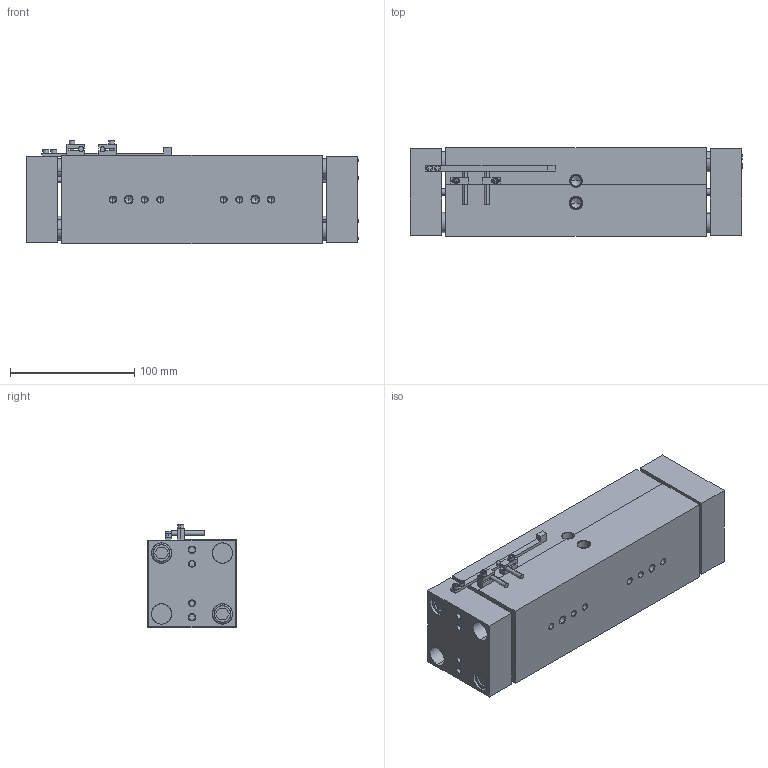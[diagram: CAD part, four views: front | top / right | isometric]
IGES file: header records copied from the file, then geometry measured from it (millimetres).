
Start section: SolidWorks IGES file using analytic representation for surfaces
Global section: file name: C:\Users\jmkuhnes\Pictures\My Transfers\AGW-625-6\AGW-625-6 CLOSED in IN.IGS; native system: SolidWorks 2013; preprocessor: SolidWorks 2013; author: jmkuhnes; date: 141125.095800; units: inch
Bounding box: 266.7 x 71.12 x 83.19 mm (x, y, z)
Surface area: 207726.1 mm2 (no closed solid volume)
Topology: 0 solids, 0 shells, 393 faces, 5318 edges, 5286 vertices
Faces by surface type: revolution 220, bspline 173
